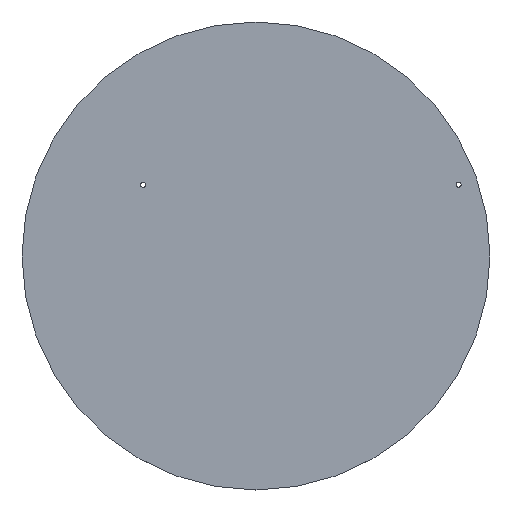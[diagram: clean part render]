
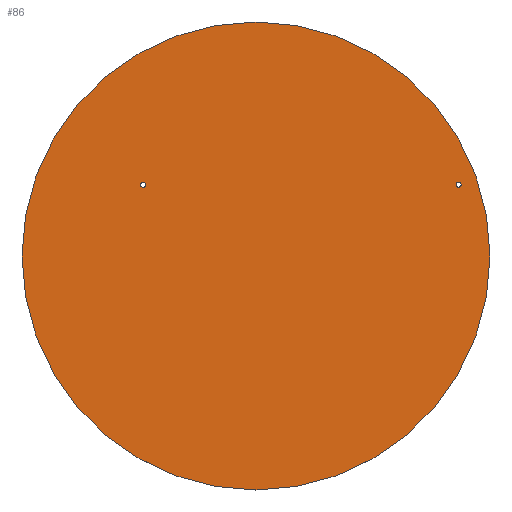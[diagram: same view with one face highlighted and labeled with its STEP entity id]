
A CAD part, top view. The second image highlights one B-rep face of the part: STEP entity #86.
In plain terms, the highlighted planar face has unit normal (0, 0, 1).
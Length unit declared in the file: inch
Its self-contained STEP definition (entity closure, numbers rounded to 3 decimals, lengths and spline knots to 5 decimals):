
#15=FACE_BOUND('',#30,.T.);
#16=FACE_BOUND('',#31,.T.);
#19=PLANE('',#111);
#24=FACE_OUTER_BOUND('',#29,.T.);
#29=EDGE_LOOP('',(#74));
#30=EDGE_LOOP('',(#75));
#31=EDGE_LOOP('',(#76));
#41=CIRCLE('',#103,0.01562);
#43=CIRCLE('',#106,0.01563);
#45=CIRCLE('',#109,1.4375);
#47=VERTEX_POINT('',#142);
#49=VERTEX_POINT('',#148);
#51=VERTEX_POINT('',#154);
#53=EDGE_CURVE('',#47,#47,#41,.T.);
#56=EDGE_CURVE('',#49,#49,#43,.T.);
#59=EDGE_CURVE('',#51,#51,#45,.T.);
#74=ORIENTED_EDGE('',*,*,#59,.T.);
#75=ORIENTED_EDGE('',*,*,#56,.T.);
#76=ORIENTED_EDGE('',*,*,#53,.T.);
#86=ADVANCED_FACE('',(#24,#15,#16),#19,.T.);
#103=AXIS2_PLACEMENT_3D('',#143,#117,#118);
#106=AXIS2_PLACEMENT_3D('',#149,#124,#125);
#109=AXIS2_PLACEMENT_3D('',#155,#131,#132);
#111=AXIS2_PLACEMENT_3D('',#159,#136,#137);
#117=DIRECTION('center_axis',(0.,0.,-1.));
#118=DIRECTION('ref_axis',(1.,0.,0.));
#124=DIRECTION('center_axis',(0.,0.,-1.));
#125=DIRECTION('ref_axis',(1.,0.,0.));
#131=DIRECTION('center_axis',(0.,0.,1.));
#132=DIRECTION('ref_axis',(1.,0.,0.));
#136=DIRECTION('center_axis',(0.,0.,1.));
#137=DIRECTION('ref_axis',(1.,0.,0.));
#142=CARTESIAN_POINT('',(1.22868,0.4375,0.02));
#143=CARTESIAN_POINT('Origin',(1.24431,0.4375,0.02));
#148=CARTESIAN_POINT('',(-0.70882,0.4375,0.02));
#149=CARTESIAN_POINT('Origin',(-0.69319,0.4375,0.02));
#154=CARTESIAN_POINT('',(-1.4375,0.,0.02));
#155=CARTESIAN_POINT('Origin',(0.,0.,0.02));
#159=CARTESIAN_POINT('Origin',(0.,0.,0.02));
